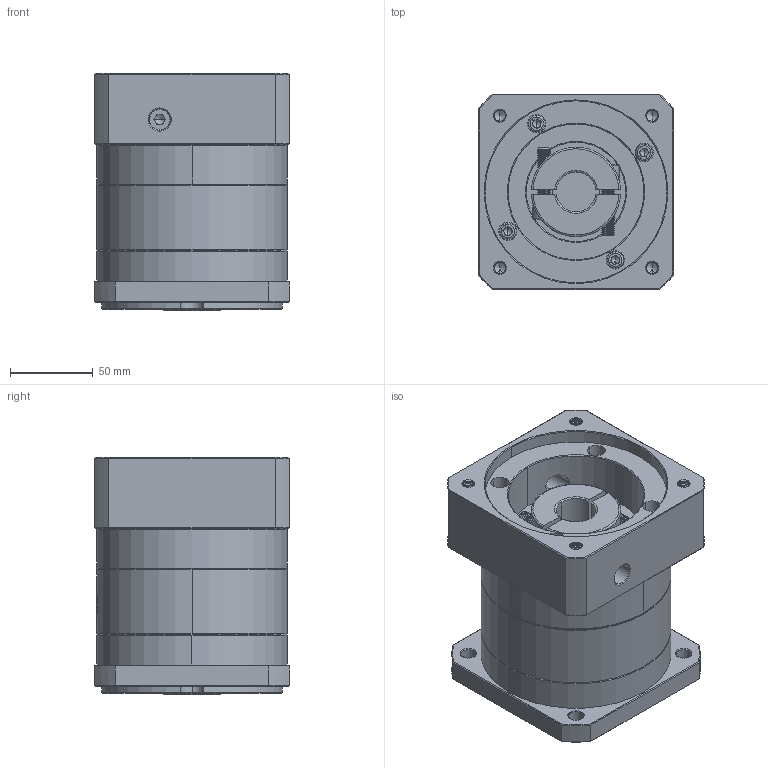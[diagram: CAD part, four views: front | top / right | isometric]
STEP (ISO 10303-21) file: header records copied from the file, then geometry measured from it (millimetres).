
FILE_DESCRIPTION (( 'STEP AP214' ), '1' );
FILE_NAME ('ZF120A-K25-L1-P2-24-110-130-M8.step', '2023-08-27T04:49:53', ( '' ), ( '' ), 'SwSTEP 2.0', 'SolidWorks 2016', '' );
FILE_SCHEMA (( 'AUTOMOTIVE_DESIGN' ));
Length unit declared in the file: millimetre
Products named in the file (1): ZF120A-K25-L1-P2-24-110-130-M8
Bounding box: 118 x 118 x 143.5 mm (x, y, z)
Volume: 1395190.6 mm3; surface area: 164578.8 mm2
Topology: 6 solids, 6 shells, 2163 faces, 5740 edges, 3682 vertices
Faces by surface type: plane 1027, bspline 410, cylinder 389, cone 317, torus 20
Entity records: 117288 total; most frequent: CARTESIAN_POINT 44968, ORIENTED_EDGE 11424, DIRECTION 8295, EDGE_CURVE 5712, VERTEX_POINT 3682, LINE 3039, VECTOR 3039, AXIS2_PLACEMENT_3D 2628
